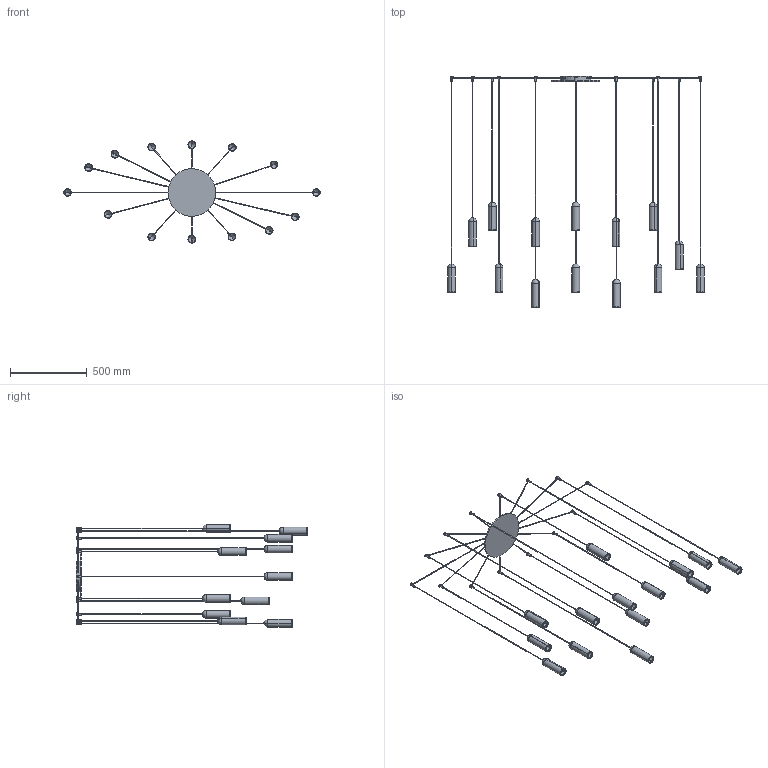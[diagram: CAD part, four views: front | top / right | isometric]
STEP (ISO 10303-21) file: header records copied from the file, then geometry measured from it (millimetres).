
FILE_DESCRIPTION (( 'STEP AP203' ), '1' );
FILE_NAME ('NANA9-00-NANUM_14_A sospensione.STEP', '2025-05-05T14:41:40', ( '' ), ( '' ), 'SwSTEP 2.0', 'SolidWorks 2022', '' );
FILE_SCHEMA (( 'CONFIG_CONTROL_DESIGN' ));
Length unit declared in the file: millimetre
Products named in the file (7): NANUM_LAMPADA SINGOLA_H=1500; NANUM_LAMPADA SINGOLA_H=2000; NANUM_LAMPADA SINGOLA_H=1600; NANA9-00-NANUM_14_A sospensione; NANUM_LAMPADA SINGOLA_H=1750; NANUM_LAMPADA SINGOLA_H=1900; Nanum_Rosone_NANUM_14 sospensione<A macchina>
Assembly tree (15 placements, depth 2):
  NANA9-00-NANUM_14_A sospensione
    Nanum_Rosone_NANUM_14 sospensione<A macchina>
    NANUM_LAMPADA SINGOLA_H=1600  x5
    NANUM_LAMPADA SINGOLA_H=1900  x3
    NANUM_LAMPADA SINGOLA_H=1500  x2
    NANUM_LAMPADA SINGOLA_H=2000  x3
    NANUM_LAMPADA SINGOLA_H=1750
Bounding box: 1667 x 1504.5 x 664.5 mm (x, y, z)
Volume: 2799982.4 mm3; surface area: 1313015.4 mm2
Topology: 43 solids, 43 shells, 535 faces, 1164 edges, 660 vertices
Faces by surface type: cylinder 280, plane 115, cone 56, sphere 56, torus 28
Entity records: 7361 total; most frequent: CARTESIAN_POINT 1519, DIRECTION 1126, ORIENTED_EDGE 912, AXIS2_PLACEMENT_3D 491, EDGE_CURVE 456, VERTEX_POINT 280, EDGE_LOOP 268, FACE_OUTER_BOUND 247
